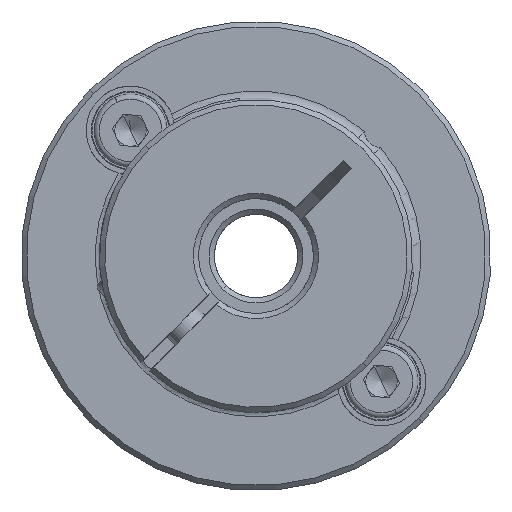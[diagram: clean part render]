
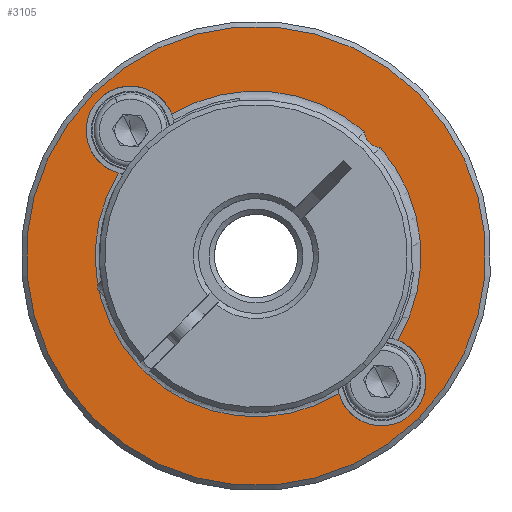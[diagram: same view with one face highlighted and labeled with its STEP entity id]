
A CAD part, front view. The second image highlights one B-rep face of the part: STEP entity #3105.
In plain terms, the highlighted planar face has unit normal (0, -1, 0).
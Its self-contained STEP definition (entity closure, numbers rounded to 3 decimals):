
#133 = DIRECTION ( 'NONE',  ( 0., 1., 0. ) ) ;
#190 = DIRECTION ( 'NONE',  ( 0.145, 0., -0.989 ) ) ;
#231 = CARTESIAN_POINT ( 'NONE',  ( -13.688, 21.413, 33.299 ) ) ;
#411 = EDGE_LOOP ( 'NONE', ( #1511, #3023 ) ) ;
#578 = DIRECTION ( 'NONE',  ( 0., -1., 0. ) ) ;
#683 = AXIS2_PLACEMENT_3D ( 'NONE', #6193, #11879, #4162 ) ;
#745 = DIRECTION ( 'NONE',  ( 0., -1., 0. ) ) ;
#1056 = AXIS2_PLACEMENT_3D ( 'NONE', #1219, #6152, #3254 ) ;
#1219 = CARTESIAN_POINT ( 'NONE',  ( -2.531, 21.413, 43.914 ) ) ;
#1274 = CARTESIAN_POINT ( 'NONE',  ( 9.49, 21.413, 31.893 ) ) ;
#1377 = CARTESIAN_POINT ( 'NONE',  ( 9.49, 21.413, 55.935 ) ) ;
#1440 = FACE_OUTER_BOUND ( 'NONE', #411, .T. ) ;
#1482 = DIRECTION ( 'NONE',  ( -0.707, 0., 0.707 ) ) ;
#1511 = ORIENTED_EDGE ( 'NONE', *, *, #3260, .T. ) ;
#1565 = EDGE_CURVE ( 'NONE', #8648, #11809, #7295, .T. ) ;
#1640 = PLANE ( 'NONE',  #7440 ) ;
#1743 = CARTESIAN_POINT ( 'NONE',  ( -2.531, 21.413, 43.914 ) ) ;
#1808 = CARTESIAN_POINT ( 'NONE',  ( -18.087, 21.413, 59.47 ) ) ;
#1828 = CARTESIAN_POINT ( 'NONE',  ( -2.531, 21.413, 43.914 ) ) ;
#1898 = DIRECTION ( 'NONE',  ( -0.707, 0., 0.707 ) ) ;
#1968 = ORIENTED_EDGE ( 'NONE', *, *, #5075, .T. ) ;
#2149 = CARTESIAN_POINT ( 'NONE',  ( 5.406, 21.413, 30.717 ) ) ;
#2221 = EDGE_CURVE ( 'NONE', #11768, #12254, #7460, .T. ) ;
#2280 = CIRCLE ( 'NONE', #9797, 15.8 ) ;
#2321 = EDGE_CURVE ( 'NONE', #12259, #4479, #5545, .T. ) ;
#2452 = CARTESIAN_POINT ( 'NONE',  ( -14.552, 21.413, 55.935 ) ) ;
#2704 = DIRECTION ( 'NONE',  ( 0., 1., 0. ) ) ;
#2856 = CARTESIAN_POINT ( 'NONE',  ( 12.495, 21.413, 28.888 ) ) ;
#2938 = AXIS2_PLACEMENT_3D ( 'NONE', #7287, #10087, #1482 ) ;
#3023 = ORIENTED_EDGE ( 'NONE', *, *, #8307, .T. ) ;
#3097 = DIRECTION ( 'NONE',  ( -0.707, 0., 0.707 ) ) ;
#3105 = ADVANCED_FACE ( 'NONE', ( #4028, #1440 ), #1640, .T. ) ;
#3173 = ORIENTED_EDGE ( 'NONE', *, *, #6364, .T. ) ;
#3254 = DIRECTION ( 'NONE',  ( -0.707, 0., 0.707 ) ) ;
#3260 = EDGE_CURVE ( 'NONE', #11865, #5456, #6848, .T. ) ;
#3563 = CARTESIAN_POINT ( 'NONE',  ( -13.464, 21.413, 33.162 ) ) ;
#3687 = DIRECTION ( 'NONE',  ( -0.707, 0., 0.707 ) ) ;
#3702 = DIRECTION ( 'NONE',  ( 0., 1., 0. ) ) ;
#3778 = EDGE_CURVE ( 'NONE', #10802, #10505, #4610, .T. ) ;
#4005 = AXIS2_PLACEMENT_3D ( 'NONE', #1828, #745, #7598 ) ;
#4028 = FACE_BOUND ( 'NONE', #11859, .T. ) ;
#4037 = CARTESIAN_POINT ( 'NONE',  ( -13.145, 21.413, 32.757 ) ) ;
#4162 = DIRECTION ( 'NONE',  ( 1., 0., 0. ) ) ;
#4195 = ORIENTED_EDGE ( 'NONE', *, *, #5328, .T. ) ;
#4201 = DIRECTION ( 'NONE',  ( 0., 1., 0. ) ) ;
#4223 = AXIS2_PLACEMENT_3D ( 'NONE', #8454, #2704, #3687 ) ;
#4464 = ORIENTED_EDGE ( 'NONE', *, *, #5180, .T. ) ;
#4479 = VERTEX_POINT ( 'NONE', #12345 ) ;
#4534 = AXIS2_PLACEMENT_3D ( 'NONE', #2452, #4622, #9417 ) ;
#4543 = CARTESIAN_POINT ( 'NONE',  ( -13.145, 21.413, 32.757 ) ) ;
#4576 = CIRCLE ( 'NONE', #5712, 4.25 ) ;
#4610 = CIRCLE ( 'NONE', #683, 1.65 ) ;
#4622 = DIRECTION ( 'NONE',  ( 0., 1., 0. ) ) ;
#4711 = DIRECTION ( 'NONE',  ( -0.707, 0., 0.707 ) ) ;
#5075 = EDGE_CURVE ( 'NONE', #4479, #10802, #2280, .T. ) ;
#5180 = EDGE_CURVE ( 'NONE', #11282, #11768, #4576, .T. ) ;
#5328 = EDGE_CURVE ( 'NONE', #10505, #11282, #10693, .T. ) ;
#5456 = VERTEX_POINT ( 'NONE', #1808 ) ;
#5545 = CIRCLE ( 'NONE', #5839, 4.25 ) ;
#5712 = AXIS2_PLACEMENT_3D ( 'NONE', #11634, #133, #1898 ) ;
#5839 = AXIS2_PLACEMENT_3D ( 'NONE', #9956, #4201, #11962 ) ;
#5919 = CIRCLE ( 'NONE', #1056, 22. ) ;
#5943 = AXIS2_PLACEMENT_3D ( 'NONE', #8837, #6072, #3097 ) ;
#6072 = DIRECTION ( 'NONE',  ( 0., 1., 0. ) ) ;
#6152 = DIRECTION ( 'NONE',  ( 0., -1., 0. ) ) ;
#6193 = CARTESIAN_POINT ( 'NONE',  ( 9.49, 21.413, 55.935 ) ) ;
#6240 = ORIENTED_EDGE ( 'NONE', *, *, #2221, .T. ) ;
#6364 = EDGE_CURVE ( 'NONE', #11513, #12259, #7843, .T. ) ;
#6437 = CARTESIAN_POINT ( 'NONE',  ( -15.728, 21.413, 51.851 ) ) ;
#6440 = EDGE_CURVE ( 'NONE', #11809, #11513, #11482, .T. ) ;
#6848 = CIRCLE ( 'NONE', #4005, 22. ) ;
#6884 = CARTESIAN_POINT ( 'NONE',  ( 13.026, 21.413, 28.358 ) ) ;
#7101 = AXIS2_PLACEMENT_3D ( 'NONE', #1274, #8000, #8965 ) ;
#7287 = CARTESIAN_POINT ( 'NONE',  ( -2.531, 21.413, 43.914 ) ) ;
#7295 = B_SPLINE_CURVE_WITH_KNOTS ( 'NONE', 3,
 ( #4543, #10220, #3563, #12164 ),
 .UNSPECIFIED., .F., .F.,
 ( 4, 4 ),
 ( 0., 1. ),
 .UNSPECIFIED. ) ;
#7440 = AXIS2_PLACEMENT_3D ( 'NONE', #1377, #578, #190 ) ;
#7460 = CIRCLE ( 'NONE', #7101, 4.25 ) ;
#7480 = ORIENTED_EDGE ( 'NONE', *, *, #3778, .T. ) ;
#7598 = DIRECTION ( 'NONE',  ( -0.707, 0., 0.707 ) ) ;
#7843 = CIRCLE ( 'NONE', #4534, 4.25 ) ;
#8000 = DIRECTION ( 'NONE',  ( 0., 1., 0. ) ) ;
#8307 = EDGE_CURVE ( 'NONE', #5456, #11865, #5919, .T. ) ;
#8454 = CARTESIAN_POINT ( 'NONE',  ( -2.531, 21.413, 43.914 ) ) ;
#8648 = VERTEX_POINT ( 'NONE', #4037 ) ;
#8705 = CARTESIAN_POINT ( 'NONE',  ( 11.054, 21.413, 35.845 ) ) ;
#8722 = ORIENTED_EDGE ( 'NONE', *, *, #1565, .T. ) ;
#8820 = ORIENTED_EDGE ( 'NONE', *, *, #6440, .T. ) ;
#8835 = ORIENTED_EDGE ( 'NONE', *, *, #10466, .T. ) ;
#8837 = CARTESIAN_POINT ( 'NONE',  ( -2.531, 21.413, 43.914 ) ) ;
#8965 = DIRECTION ( 'NONE',  ( -0.707, 0., 0.707 ) ) ;
#8982 = ORIENTED_EDGE ( 'NONE', *, *, #2321, .T. ) ;
#9417 = DIRECTION ( 'NONE',  ( -0.707, 0., 0.707 ) ) ;
#9581 = CARTESIAN_POINT ( 'NONE',  ( 7.843, 21.413, 55.831 ) ) ;
#9797 = AXIS2_PLACEMENT_3D ( 'NONE', #1743, #3702, #4711 ) ;
#9956 = CARTESIAN_POINT ( 'NONE',  ( -14.552, 21.413, 55.935 ) ) ;
#10087 = DIRECTION ( 'NONE',  ( 0., 1., 0. ) ) ;
#10220 = CARTESIAN_POINT ( 'NONE',  ( -13.283, 21.413, 32.981 ) ) ;
#10466 = EDGE_CURVE ( 'NONE', #12254, #8648, #11404, .T. ) ;
#10505 = VERTEX_POINT ( 'NONE', #11217 ) ;
#10693 = CIRCLE ( 'NONE', #5943, 15.8 ) ;
#10802 = VERTEX_POINT ( 'NONE', #9581 ) ;
#10892 = CARTESIAN_POINT ( 'NONE',  ( -17.557, 21.413, 58.94 ) ) ;
#11217 = CARTESIAN_POINT ( 'NONE',  ( 9.386, 21.413, 54.288 ) ) ;
#11282 = VERTEX_POINT ( 'NONE', #8705 ) ;
#11404 = CIRCLE ( 'NONE', #2938, 15.4 ) ;
#11482 = CIRCLE ( 'NONE', #4223, 15.4 ) ;
#11513 = VERTEX_POINT ( 'NONE', #6437 ) ;
#11634 = CARTESIAN_POINT ( 'NONE',  ( 9.49, 21.413, 31.893 ) ) ;
#11768 = VERTEX_POINT ( 'NONE', #2856 ) ;
#11809 = VERTEX_POINT ( 'NONE', #231 ) ;
#11859 = EDGE_LOOP ( 'NONE', ( #7480, #4195, #4464, #6240, #8835, #8722, #8820, #3173, #8982, #1968 ) ) ;
#11865 = VERTEX_POINT ( 'NONE', #6884 ) ;
#11879 = DIRECTION ( 'NONE',  ( 0., -1., 0. ) ) ;
#11962 = DIRECTION ( 'NONE',  ( -0.707, 0., 0.707 ) ) ;
#12164 = CARTESIAN_POINT ( 'NONE',  ( -13.688, 21.413, 33.299 ) ) ;
#12254 = VERTEX_POINT ( 'NONE', #2149 ) ;
#12259 = VERTEX_POINT ( 'NONE', #10892 ) ;
#12345 = CARTESIAN_POINT ( 'NONE',  ( -10.6, 21.413, 57.498 ) ) ;
